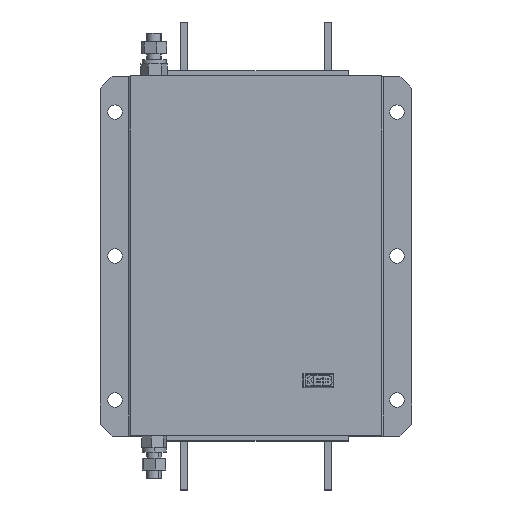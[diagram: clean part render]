
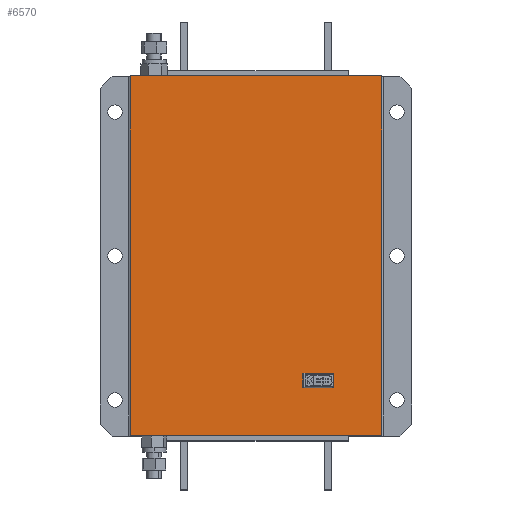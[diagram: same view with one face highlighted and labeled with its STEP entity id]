
A CAD part, top view. The second image highlights one B-rep face of the part: STEP entity #6570.
In plain terms, the highlighted planar face has unit normal (0, 0, 1).
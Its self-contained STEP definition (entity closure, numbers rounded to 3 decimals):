
#51 = ORIENTED_EDGE ( 'NONE', *, *, #3164, .T. ) ;
#87 = DIRECTION ( 'NONE',  ( -1., 0., 0. ) ) ;
#140 = CARTESIAN_POINT ( 'NONE',  ( 39., -99., 115. ) ) ;
#153 = VERTEX_POINT ( 'NONE', #1101 ) ;
#195 = CARTESIAN_POINT ( 'NONE',  ( 40., -109., 115. ) ) ;
#223 = DIRECTION ( 'NONE',  ( 0., 0., -1. ) ) ;
#286 = DIRECTION ( 'NONE',  ( 1., 0., 0. ) ) ;
#528 = LINE ( 'NONE', #3142, #4787 ) ;
#548 = ORIENTED_EDGE ( 'NONE', *, *, #3835, .F. ) ;
#571 = DIRECTION ( 'NONE',  ( 0., 1., 0. ) ) ;
#575 = DIRECTION ( 'NONE',  ( 0., 1., 0. ) ) ;
#688 = LINE ( 'NONE', #5390, #5233 ) ;
#708 = VERTEX_POINT ( 'NONE', #4187 ) ;
#714 = ORIENTED_EDGE ( 'NONE', *, *, #5097, .T. ) ;
#734 = EDGE_CURVE ( 'NONE', #1559, #4594, #688, .T. ) ;
#754 = VERTEX_POINT ( 'NONE', #787 ) ;
#779 = ORIENTED_EDGE ( 'NONE', *, *, #734, .F. ) ;
#787 = CARTESIAN_POINT ( 'NONE',  ( 105., -150., 115. ) ) ;
#937 = CARTESIAN_POINT ( 'NONE',  ( 64., -98., 115. ) ) ;
#994 = CIRCLE ( 'NONE', #3315, 1. ) ;
#1011 = EDGE_CURVE ( 'NONE', #2592, #1795, #6322, .T. ) ;
#1027 = VECTOR ( 'NONE', #5094, 1000. ) ;
#1040 = EDGE_LOOP ( 'NONE', ( #4790, #51, #779, #548 ) ) ;
#1044 = EDGE_LOOP ( 'NONE', ( #2752, #3379, #2907, #1102, #714, #1910, #2088, #5337 ) ) ;
#1101 = CARTESIAN_POINT ( 'NONE',  ( 39., -109., 115. ) ) ;
#1102 = ORIENTED_EDGE ( 'NONE', *, *, #1011, .T. ) ;
#1149 = LINE ( 'NONE', #5747, #2402 ) ;
#1193 = DIRECTION ( 'NONE',  ( 1., 0., 0. ) ) ;
#1303 = CIRCLE ( 'NONE', #5879, 1. ) ;
#1334 = EDGE_CURVE ( 'NONE', #4339, #5423, #5889, .T. ) ;
#1381 = LINE ( 'NONE', #5542, #2831 ) ;
#1387 = CARTESIAN_POINT ( 'NONE',  ( -105., -391.937, 115. ) ) ;
#1412 = AXIS2_PLACEMENT_3D ( 'NONE', #5274, #4833, #2695 ) ;
#1559 = VERTEX_POINT ( 'NONE', #4590 ) ;
#1603 = LINE ( 'NONE', #5754, #1976 ) ;
#1696 = DIRECTION ( 'NONE',  ( -1., 0., 0. ) ) ;
#1795 = VERTEX_POINT ( 'NONE', #6596 ) ;
#1885 = EDGE_CURVE ( 'NONE', #708, #2592, #6627, .T. ) ;
#1910 = ORIENTED_EDGE ( 'NONE', *, *, #1334, .T. ) ;
#1935 = EDGE_CURVE ( 'NONE', #153, #2928, #1603, .T. ) ;
#1948 = DIRECTION ( 'NONE',  ( 1., 0., 0. ) ) ;
#1976 = VECTOR ( 'NONE', #575, 1000. ) ;
#1993 = DIRECTION ( 'NONE',  ( 0., 1., 0. ) ) ;
#2088 = ORIENTED_EDGE ( 'NONE', *, *, #2660, .T. ) ;
#2194 = VECTOR ( 'NONE', #87, 1000. ) ;
#2278 = DIRECTION ( 'NONE',  ( 1., 0., 0. ) ) ;
#2356 = EDGE_CURVE ( 'NONE', #4195, #153, #994, .T. ) ;
#2402 = VECTOR ( 'NONE', #571, 1000. ) ;
#2440 = LINE ( 'NONE', #4583, #1027 ) ;
#2592 = VERTEX_POINT ( 'NONE', #937 ) ;
#2660 = EDGE_CURVE ( 'NONE', #5423, #4195, #3861, .T. ) ;
#2695 = DIRECTION ( 'NONE',  ( 1., 0., 0. ) ) ;
#2752 = ORIENTED_EDGE ( 'NONE', *, *, #1935, .T. ) ;
#2761 = CARTESIAN_POINT ( 'NONE',  ( 64., -110., 115. ) ) ;
#2831 = VECTOR ( 'NONE', #5042, 1000. ) ;
#2837 = CARTESIAN_POINT ( 'NONE',  ( -105., -150., 115. ) ) ;
#2907 = ORIENTED_EDGE ( 'NONE', *, *, #1885, .T. ) ;
#2928 = VERTEX_POINT ( 'NONE', #140 ) ;
#2984 = CARTESIAN_POINT ( 'NONE',  ( 64., -110., 115. ) ) ;
#3060 = EDGE_CURVE ( 'NONE', #754, #4728, #1381, .T. ) ;
#3142 = CARTESIAN_POINT ( 'NONE',  ( 105., -391.937, 115. ) ) ;
#3164 = EDGE_CURVE ( 'NONE', #754, #4594, #528, .T. ) ;
#3315 = AXIS2_PLACEMENT_3D ( 'NONE', #195, #5816, #2278 ) ;
#3322 = CARTESIAN_POINT ( 'NONE',  ( 64., -109., 115. ) ) ;
#3379 = ORIENTED_EDGE ( 'NONE', *, *, #4071, .T. ) ;
#3835 = EDGE_CURVE ( 'NONE', #4728, #1559, #1149, .T. ) ;
#3861 = LINE ( 'NONE', #2761, #2194 ) ;
#3864 = CARTESIAN_POINT ( 'NONE',  ( 40., -99., 115. ) ) ;
#3867 = DIRECTION ( 'NONE',  ( 0., 0., -1. ) ) ;
#4037 = FACE_OUTER_BOUND ( 'NONE', #1040, .T. ) ;
#4071 = EDGE_CURVE ( 'NONE', #2928, #708, #1303, .T. ) ;
#4103 = DIRECTION ( 'NONE',  ( 0., 0., 1. ) ) ;
#4187 = CARTESIAN_POINT ( 'NONE',  ( 40., -98., 115. ) ) ;
#4195 = VERTEX_POINT ( 'NONE', #4894 ) ;
#4339 = VERTEX_POINT ( 'NONE', #5731 ) ;
#4583 = CARTESIAN_POINT ( 'NONE',  ( 65., -109., 115. ) ) ;
#4590 = CARTESIAN_POINT ( 'NONE',  ( -105., 150., 115. ) ) ;
#4594 = VERTEX_POINT ( 'NONE', #6344 ) ;
#4728 = VERTEX_POINT ( 'NONE', #2837 ) ;
#4787 = VECTOR ( 'NONE', #1993, 1000. ) ;
#4790 = ORIENTED_EDGE ( 'NONE', *, *, #3060, .F. ) ;
#4833 = DIRECTION ( 'NONE',  ( 0., 0., -1. ) ) ;
#4894 = CARTESIAN_POINT ( 'NONE',  ( 40., -110., 115. ) ) ;
#4978 = AXIS2_PLACEMENT_3D ( 'NONE', #1387, #4103, #4980 ) ;
#4980 = DIRECTION ( 'NONE',  ( 0., -1., 0. ) ) ;
#5042 = DIRECTION ( 'NONE',  ( -1., 0., 0. ) ) ;
#5094 = DIRECTION ( 'NONE',  ( 0., -1., 0. ) ) ;
#5097 = EDGE_CURVE ( 'NONE', #1795, #4339, #2440, .T. ) ;
#5114 = PLANE ( 'NONE',  #4978 ) ;
#5233 = VECTOR ( 'NONE', #1193, 1000. ) ;
#5274 = CARTESIAN_POINT ( 'NONE',  ( 64., -99., 115. ) ) ;
#5337 = ORIENTED_EDGE ( 'NONE', *, *, #2356, .T. ) ;
#5390 = CARTESIAN_POINT ( 'NONE',  ( -105., 150., 115. ) ) ;
#5423 = VERTEX_POINT ( 'NONE', #2984 ) ;
#5542 = CARTESIAN_POINT ( 'NONE',  ( -105., -150., 115. ) ) ;
#5612 = FACE_BOUND ( 'NONE', #1044, .T. ) ;
#5731 = CARTESIAN_POINT ( 'NONE',  ( 65., -109., 115. ) ) ;
#5747 = CARTESIAN_POINT ( 'NONE',  ( -105., -391.937, 115. ) ) ;
#5754 = CARTESIAN_POINT ( 'NONE',  ( 39., -109., 115. ) ) ;
#5794 = CARTESIAN_POINT ( 'NONE',  ( 64., -98., 115. ) ) ;
#5816 = DIRECTION ( 'NONE',  ( 0., 0., -1. ) ) ;
#5879 = AXIS2_PLACEMENT_3D ( 'NONE', #3864, #223, #286 ) ;
#5889 = CIRCLE ( 'NONE', #6210, 1. ) ;
#5898 = VECTOR ( 'NONE', #1948, 1000. ) ;
#6210 = AXIS2_PLACEMENT_3D ( 'NONE', #3322, #3867, #1696 ) ;
#6322 = CIRCLE ( 'NONE', #1412, 1. ) ;
#6344 = CARTESIAN_POINT ( 'NONE',  ( 105., 150., 115. ) ) ;
#6570 = ADVANCED_FACE ( 'NONE', ( #4037, #5612 ), #5114, .T. ) ;
#6596 = CARTESIAN_POINT ( 'NONE',  ( 65., -99., 115. ) ) ;
#6627 = LINE ( 'NONE', #5794, #5898 ) ;
